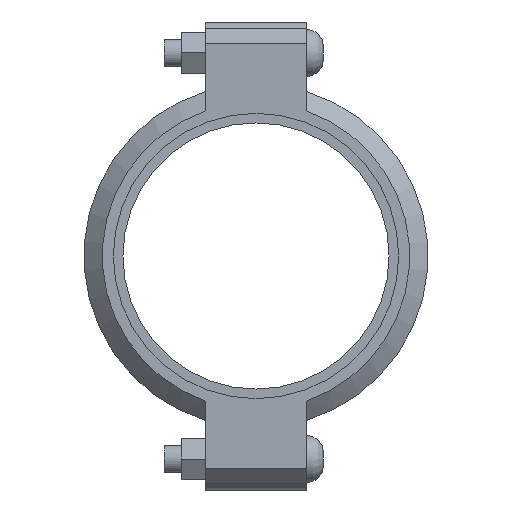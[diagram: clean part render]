
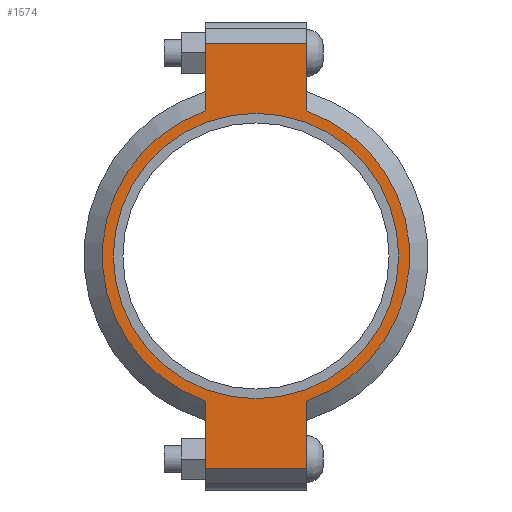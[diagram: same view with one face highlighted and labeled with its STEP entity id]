
A CAD part, left-side view. The second image highlights one B-rep face of the part: STEP entity #1574.
In plain terms, the highlighted planar face has unit normal (-1, 0, 0) as drawn and (0, 0, 1) by its records, which use the part's own axes.
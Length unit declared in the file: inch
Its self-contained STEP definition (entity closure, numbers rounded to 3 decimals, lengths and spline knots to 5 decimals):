
#198=LINE('',#2756,#291);
#206=LINE('',#2792,#299);
#213=LINE('',#2813,#306);
#222=LINE('',#2845,#315);
#223=LINE('',#2849,#316);
#224=LINE('',#2851,#317);
#291=VECTOR('',#2244,0.3937);
#299=VECTOR('',#2260,0.3937);
#306=VECTOR('',#2279,0.3937);
#315=VECTOR('',#2304,0.3937);
#316=VECTOR('',#2309,0.3937);
#317=VECTOR('',#2310,0.3937);
#373=FACE_BOUND('',#551,.T.);
#445=FACE_OUTER_BOUND('',#550,.T.);
#550=EDGE_LOOP('',(#1315,#1316,#1317,#1318,#1319,#1320,#1321,#1322));
#551=EDGE_LOOP('',(#1323));
#623=CIRCLE('',#1802,3.25);
#649=CIRCLE('',#1861,3.5);
#650=CIRCLE('',#1862,3.5);
#715=VERTEX_POINT('',#2572);
#758=VERTEX_POINT('',#2753);
#759=VERTEX_POINT('',#2755);
#770=VERTEX_POINT('',#2787);
#771=VERTEX_POINT('',#2791);
#778=VERTEX_POINT('',#2810);
#779=VERTEX_POINT('',#2812);
#789=VERTEX_POINT('',#2848);
#790=VERTEX_POINT('',#2850);
#871=EDGE_CURVE('',#715,#715,#623,.T.);
#932=EDGE_CURVE('',#759,#758,#198,.T.);
#946=EDGE_CURVE('',#771,#770,#206,.T.);
#956=EDGE_CURVE('',#779,#778,#213,.T.);
#971=EDGE_CURVE('',#771,#758,#222,.T.);
#972=EDGE_CURVE('',#770,#779,#649,.T.);
#973=EDGE_CURVE('',#789,#778,#223,.T.);
#974=EDGE_CURVE('',#789,#790,#224,.T.);
#975=EDGE_CURVE('',#790,#759,#650,.T.);
#1315=ORIENTED_EDGE('',*,*,#971,.F.);
#1316=ORIENTED_EDGE('',*,*,#946,.T.);
#1317=ORIENTED_EDGE('',*,*,#972,.T.);
#1318=ORIENTED_EDGE('',*,*,#956,.T.);
#1319=ORIENTED_EDGE('',*,*,#973,.F.);
#1320=ORIENTED_EDGE('',*,*,#974,.T.);
#1321=ORIENTED_EDGE('',*,*,#975,.T.);
#1322=ORIENTED_EDGE('',*,*,#932,.T.);
#1323=ORIENTED_EDGE('',*,*,#871,.T.);
#1416=PLANE('',#1860);
#1574=ADVANCED_FACE('',(#445,#373),#1416,.T.);
#1802=AXIS2_PLACEMENT_3D('',#2574,#2120,#2121);
#1860=AXIS2_PLACEMENT_3D('',#2846,#2305,#2306);
#1861=AXIS2_PLACEMENT_3D('',#2847,#2307,#2308);
#1862=AXIS2_PLACEMENT_3D('',#2852,#2311,#2312);
#2120=DIRECTION('center_axis',(0.,0.,-1.));
#2121=DIRECTION('ref_axis',(1.,0.,0.));
#2244=DIRECTION('',(1.,0.,0.));
#2260=DIRECTION('',(-1.,0.,0.));
#2279=DIRECTION('',(-1.,0.,0.));
#2304=DIRECTION('',(0.,-1.,0.));
#2305=DIRECTION('center_axis',(0.,0.,1.));
#2306=DIRECTION('ref_axis',(-1.,0.,0.));
#2307=DIRECTION('center_axis',(0.,0.,1.));
#2308=DIRECTION('ref_axis',(1.,0.,0.));
#2309=DIRECTION('',(0.,1.,0.));
#2310=DIRECTION('',(1.,0.,0.));
#2311=DIRECTION('center_axis',(0.,0.,1.));
#2312=DIRECTION('ref_axis',(1.,0.,0.));
#2572=CARTESIAN_POINT('',(-3.25,0.,1.04));
#2574=CARTESIAN_POINT('Origin',(0.,0.,1.04));
#2753=CARTESIAN_POINT('',(4.83,-1.156,1.04));
#2755=CARTESIAN_POINT('',(3.30358,-1.156,1.04));
#2756=CARTESIAN_POINT('',(5.33,-1.156,1.04));
#2787=CARTESIAN_POINT('',(3.30358,1.156,1.04));
#2791=CARTESIAN_POINT('',(4.83,1.156,1.04));
#2792=CARTESIAN_POINT('',(-5.33,1.156,1.04));
#2810=CARTESIAN_POINT('',(-4.83,1.156,1.04));
#2812=CARTESIAN_POINT('',(-3.30358,1.156,1.04));
#2813=CARTESIAN_POINT('',(-5.33,1.156,1.04));
#2845=CARTESIAN_POINT('',(4.83,-0.578,1.04));
#2846=CARTESIAN_POINT('Origin',(0.,0.,
1.04));
#2847=CARTESIAN_POINT('Origin',(0.,0.,1.04));
#2848=CARTESIAN_POINT('',(-4.83,-1.156,1.04));
#2849=CARTESIAN_POINT('',(-4.83,0.578,1.04));
#2850=CARTESIAN_POINT('',(-3.30358,-1.156,1.04));
#2851=CARTESIAN_POINT('',(5.33,-1.156,1.04));
#2852=CARTESIAN_POINT('Origin',(0.,0.,1.04));
